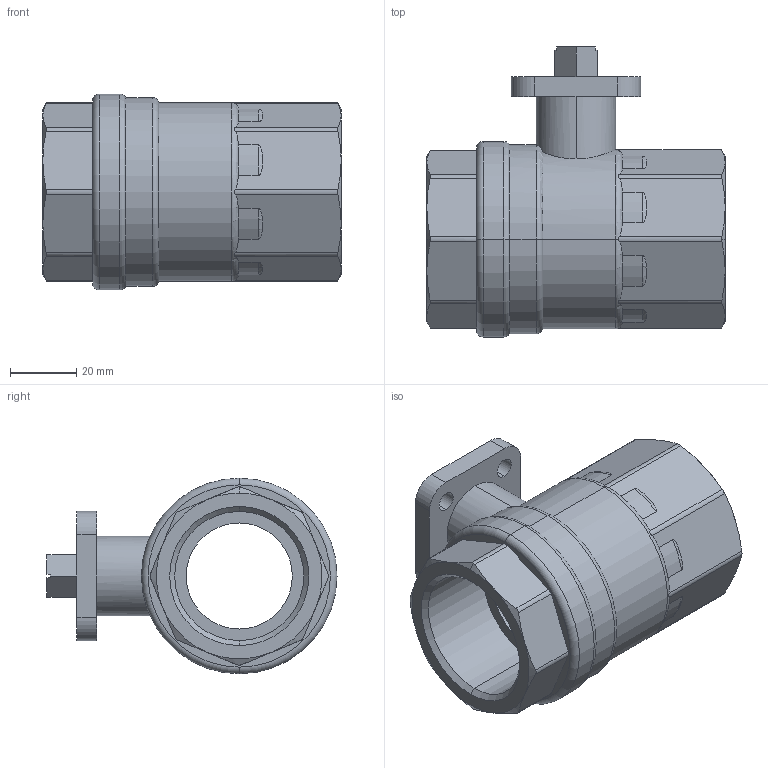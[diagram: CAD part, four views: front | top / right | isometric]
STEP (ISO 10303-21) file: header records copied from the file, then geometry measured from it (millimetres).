
FILE_DESCRIPTION (( 'STEP AP214' ), '1' );
FILE_NAME ('Ballvalve A25-DN32 G1 1_4.step', '2010-09-23T08:32:36', ( '' ), ( '' ), 'SwSTEP 2.0', 'SolidWorks 2010', '' );
FILE_SCHEMA (( 'AUTOMOTIVE_DESIGN' ));
Length unit declared in the file: millimetre
Products named in the file (1): Ballvalve A25-DN32 G1 1_4
Bounding box: 90 x 87.5 x 59 mm (x, y, z)
Volume: 126260.7 mm3; surface area: 33433.2 mm2
Topology: 1 solids, 1 shells, 131 faces, 336 edges, 213 vertices
Faces by surface type: cylinder 54, plane 37, cone 22, torus 18
Entity records: 4813 total; most frequent: CARTESIAN_POINT 1580, ORIENTED_EDGE 672, DIRECTION 621, EDGE_CURVE 336, AXIS2_PLACEMENT_3D 246, VERTEX_POINT 213, EDGE_LOOP 147, ADVANCED_FACE 131
